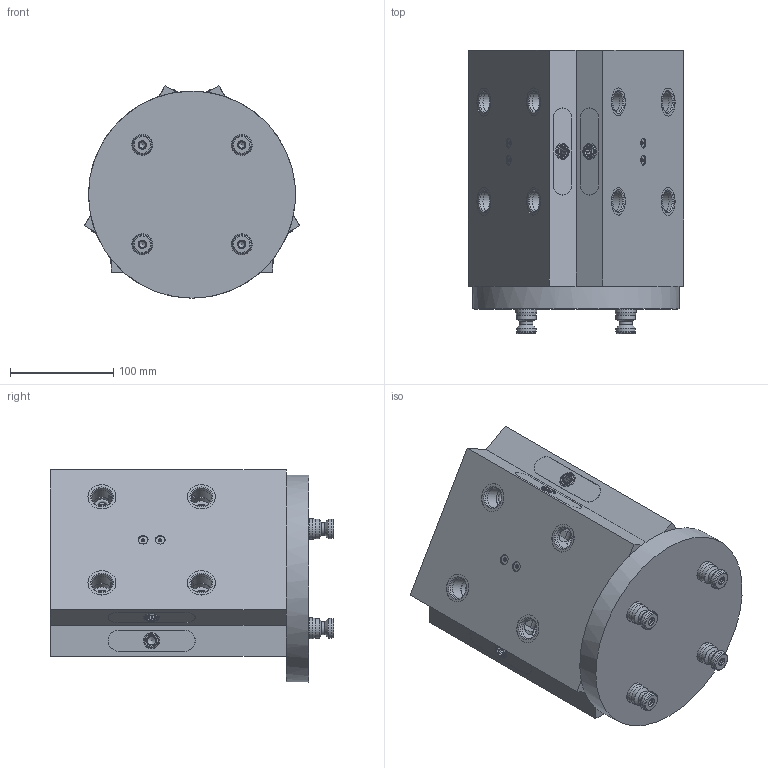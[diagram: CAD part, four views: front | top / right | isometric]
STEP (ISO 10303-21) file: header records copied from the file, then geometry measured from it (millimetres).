
FILE_DESCRIPTION (( 'STEP AP214' ), '1' );
FILE_NAME ('RL96A-T31_WEBSITE.STEP', '2025-08-11T11:29:15', ( '' ), ( '' ), 'SwSTEP 2.0', 'SolidWorks 2025', '' );
FILE_SCHEMA (( 'AUTOMOTIVE_DESIGN' ));
Length unit declared in the file: millimetre
Products named in the file (14): 9452K121-Truck-O-Ring_WEBSITE; D_RL96-3_WEBSITE; 9750K730_PLASTIC ROUND PLUG_WEBSITE_9750K73; D_RL96-2R_WEBSITE; D_PS20F_WEBSITE_HARD TURN; D_HW27X20.DB_WEBSITE; D_PS20F_WEBSITE; 9452K183-Base-O-Ring_WEBSITE; D_SB54_WEBSITE_FINISHED PART; D_RL96-1T31A_WEBSITE; D_RL96-2L_WEBSITE; D_RL96-ASSY_WEBSITE; RL96A-T31_WEBSITE; D_M10-1.5 X 25mm.Set Screw_WEBSITE
Assembly tree (37 placements, depth 3):
  9750K730_PLASTIC ROUND PLUG_WEBSITE_9750K73
  RL96A-T31_WEBSITE
    D_RL96-1T31A_WEBSITE
    D_RL96-ASSY_WEBSITE  x3
      D_RL96-2L_WEBSITE
      D_RL96-2R_WEBSITE
      D_RL96-3_WEBSITE
      D_HW27X20.DB_WEBSITE
      D_SB54_WEBSITE_FINISHED PART
    D_PS20F_WEBSITE  x4
      D_PS20F_WEBSITE_HARD TURN
      D_M10-1.5 X 25mm.Set Screw_WEBSITE
    9452K183-Base-O-Ring_WEBSITE  x12
    9452K121-Truck-O-Ring_WEBSITE  x6
Bounding box: 207.96 x 274 x 205.07 mm (x, y, z)
Volume: 6090584.5 mm3; surface area: 429790.1 mm2
Topology: 60 solids, 60 shells, 1097 faces, 2431 edges, 1499 vertices
Faces by surface type: plane 642, cylinder 277, cone 122, torus 50, bspline 6
Full cylindrical faces by diameter (mm): 0.127 x6, 2.5 x6, 3.3 x2, 4 x6, 4.7 x6, 5 x6, 5.182 x6, 6.147 x4, 8 x4, 8.204 x6, 8.5 x8, 9 x6, 9.525 x6, 10 x4, 10.2 x1, 10.795 x3, 11.938 x12, 12.497 x4, 12.573 x12, 14 x6, 15.748 x6, 16.015 x4, 16.297 x4, 19.012 x8, 19.05 x6, 19.101 x12, 19.99 x3, 20.015 x12, 20.035 x12, 20.277 x4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
Entity records: 16819 total; most frequent: CARTESIAN_POINT 5177, DIRECTION 2129, ORIENTED_EDGE 1632, AXIS2_PLACEMENT_3D 895, EDGE_CURVE 816, EDGE_LOOP 731, VERTEX_POINT 599, FACE_OUTER_BOUND 593
